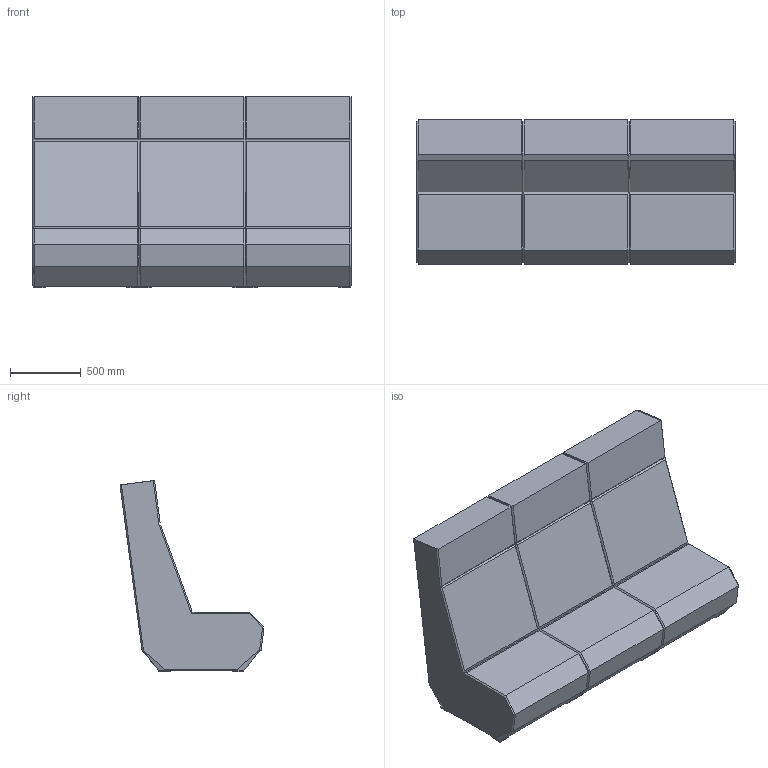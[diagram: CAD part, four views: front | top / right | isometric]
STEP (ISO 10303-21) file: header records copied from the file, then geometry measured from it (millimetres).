
FILE_DESCRIPTION(/* description */ (''),/* implementation_level */ '2;1');
FILE_NAME(/* name */ 'KM3',/* time_stamp */ '2015-10-05T16:30:36+02:00',/* author */ (''),/* organization */ (''),/* preprocessor_version */ 'ST-DEVELOPER v15',/* originating_system */ '',/* authorisation */ '');
FILE_SCHEMA (('CONFIG_CONTROL_DESIGN'));
Length unit declared in the file: millimetre
Products named in the file (1): Document
Bounding box: 2250 x 1017.73 x 1352.16 mm (x, y, z)
Volume: 1439152714.8 mm3; surface area: 13625012 mm2
Topology: 15 solids, 15 shells, 261 faces, 630 edges, 352 vertices
Faces by surface type: bspline 213, plane 48
Entity records: 9619 total; most frequent: CARTESIAN_POINT 6341, ORIENTED_EDGE 1158, EDGE_CURVE 579, VERTEX_POINT 348, ADVANCED_FACE 261, FACE_OUTER_BOUND 261, EDGE_LOOP 261, B_SPLINE_CURVE_WITH_KNOTS 104
